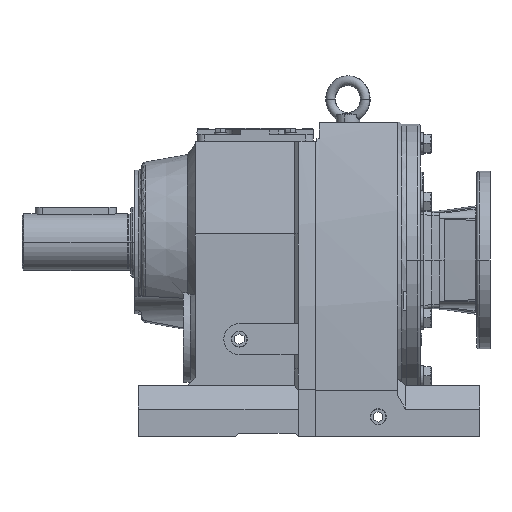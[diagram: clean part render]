
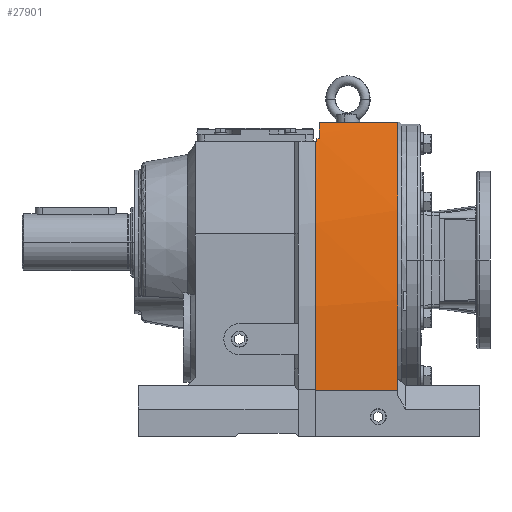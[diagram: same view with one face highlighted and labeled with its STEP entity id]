
A CAD part, front view. The second image highlights one B-rep face of the part: STEP entity #27901.
In plain terms, the highlighted cylindrical face has radius 1000 mm (diameter 2000 mm), a partial arc.
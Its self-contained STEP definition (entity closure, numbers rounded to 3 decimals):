
#5521 = DIRECTION ( 'NONE',  ( 0., 1., 0. ) ) ;
#5522 = DIRECTION ( 'NONE',  ( -1., 0., 0. ) ) ;
#5523 = CARTESIAN_POINT ( 'NONE',  ( 240., 799.313, -154.229 ) ) ;
#5525 = DIRECTION ( 'NONE',  ( 0., 0., 1. ) ) ;
#5526 = DIRECTION ( 'NONE',  ( -1., 0., 0. ) ) ;
#5527 = CARTESIAN_POINT ( 'NONE',  ( 243., 799.313, -154.229 ) ) ;
#5551 = CARTESIAN_POINT ( 'NONE',  ( 344., -200., -191.3 ) ) ;
#5552 = DIRECTION ( 'NONE',  ( 1., 0., 0. ) ) ;
#5553 = DIRECTION ( 'NONE',  ( -1., 0., 0. ) ) ;
#5554 = CARTESIAN_POINT ( 'NONE',  ( 243., -158.549, 133. ) ) ;
#5578 = DIRECTION ( 'NONE',  ( 1., 0., 0. ) ) ;
#5589 = CARTESIAN_POINT ( 'NONE',  ( 238., -151.886, 154.35 ) ) ;
#5605 = DIRECTION ( 'NONE',  ( 1., 0., 0. ) ) ;
#5606 = CARTESIAN_POINT ( 'NONE',  ( 344., -159.444, 130. ) ) ;
#5641 = CARTESIAN_POINT ( 'NONE',  ( 344., 799.313, -154.229 ) ) ;
#5644 = DIRECTION ( 'NONE',  ( 0., 0., 1. ) ) ;
#5645 = DIRECTION ( 'NONE',  ( -1., 0., 0. ) ) ;
#10001 = CIRCLE ( 'NONE', #10003, 1000. ) ;
#10003 = AXIS2_PLACEMENT_3D ( 'NONE', #5641, #5645, #5644 ) ;
#10024 = VECTOR ( 'NONE', #5605, 1000. ) ;
#10041 = VECTOR ( 'NONE', #5578, 1000. ) ;
#10049 = CIRCLE ( 'NONE', #19867, 1000. ) ;
#10115 = CIRCLE ( 'NONE', #10140, 1000. ) ;
#10140 = AXIS2_PLACEMENT_3D ( 'NONE', #32297, #32312, #32356 ) ;
#14263 = LINE ( 'NONE', #5606, #10024 ) ;
#14268 = LINE ( 'NONE', #5589, #10041 ) ;
#14276 = LINE ( 'NONE', #5551, #19879 ) ;
#14277 = LINE ( 'NONE', #5554, #19880 ) ;
#17293 = FACE_OUTER_BOUND ( 'NONE', #36539, .T. ) ;
#17294 = CYLINDRICAL_SURFACE ( 'NONE', #29004, 1000. ) ;
#19406 = EDGE_CURVE ( 'NONE', #35748, #35487, #10001, .T. ) ;
#19440 = EDGE_CURVE ( 'NONE', #35349, #35825, #14263, .T. ) ;
#19463 = EDGE_CURVE ( 'NONE', #35479, #35487, #14268, .T. ) ;
#19479 = EDGE_CURVE ( 'NONE', #35825, #35483, #10049, .T. ) ;
#19481 = EDGE_CURVE ( 'NONE', #35532, #35479, #19868, .T. ) ;
#19502 = EDGE_CURVE ( 'NONE', #35670, #35748, #14276, .T. ) ;
#19504 = EDGE_CURVE ( 'NONE', #35532, #35483, #14277, .T. ) ;
#19867 = AXIS2_PLACEMENT_3D ( 'NONE', #5523, #5522, #5521 ) ;
#19868 = CIRCLE ( 'NONE', #19869, 1000. ) ;
#19869 = AXIS2_PLACEMENT_3D ( 'NONE', #5527, #5526, #5525 ) ;
#19879 = VECTOR ( 'NONE', #5552, 1000. ) ;
#19880 = VECTOR ( 'NONE', #5553, 1000. ) ;
#23520 = DIRECTION ( 'NONE',  ( -1., 0., 0. ) ) ;
#23712 = DIRECTION ( 'NONE',  ( 0., 0., 1. ) ) ;
#23736 = CARTESIAN_POINT ( 'NONE',  ( 344., 799.313, -154.229 ) ) ;
#24207 = CARTESIAN_POINT ( 'NONE',  ( 344., -151.886, 154.35 ) ) ;
#24269 = CARTESIAN_POINT ( 'NONE',  ( 243., -158.549, 133. ) ) ;
#24325 = CARTESIAN_POINT ( 'NONE',  ( 243., -151.886, 154.35 ) ) ;
#24336 = CARTESIAN_POINT ( 'NONE',  ( 238., -200., -191.3 ) ) ;
#24447 = CARTESIAN_POINT ( 'NONE',  ( 344., -200., -191.3 ) ) ;
#24563 = CARTESIAN_POINT ( 'NONE',  ( 238., -159.444, 130. ) ) ;
#25504 = CARTESIAN_POINT ( 'NONE',  ( 240., -159.444, 130. ) ) ;
#25677 = CARTESIAN_POINT ( 'NONE',  ( 240., -158.549, 133. ) ) ;
#27676 = ORIENTED_EDGE ( 'NONE', *, *, #19504, .T. ) ;
#27679 = ORIENTED_EDGE ( 'NONE', *, *, #19440, .F. ) ;
#27682 = ORIENTED_EDGE ( 'NONE', *, *, #19406, .T. ) ;
#27683 = ORIENTED_EDGE ( 'NONE', *, *, #28618, .F. ) ;
#27684 = ORIENTED_EDGE ( 'NONE', *, *, #19502, .T. ) ;
#27685 = ORIENTED_EDGE ( 'NONE', *, *, #19463, .F. ) ;
#27686 = ORIENTED_EDGE ( 'NONE', *, *, #19481, .F. ) ;
#27687 = ORIENTED_EDGE ( 'NONE', *, *, #19479, .F. ) ;
#27901 = ADVANCED_FACE ( 'NONE', ( #17293 ), #17294, .T. ) ;
#28618 = EDGE_CURVE ( 'NONE', #35670, #35349, #10115, .T. ) ;
#29004 = AXIS2_PLACEMENT_3D ( 'NONE', #23736, #23520, #23712 ) ;
#32297 = CARTESIAN_POINT ( 'NONE',  ( 238., 799.313, -154.229 ) ) ;
#32312 = DIRECTION ( 'NONE',  ( -1., 0., 0. ) ) ;
#32356 = DIRECTION ( 'NONE',  ( 0., 0., 1. ) ) ;
#35349 = VERTEX_POINT ( 'NONE', #24563 ) ;
#35479 = VERTEX_POINT ( 'NONE', #24325 ) ;
#35483 = VERTEX_POINT ( 'NONE', #25677 ) ;
#35487 = VERTEX_POINT ( 'NONE', #24207 ) ;
#35532 = VERTEX_POINT ( 'NONE', #24269 ) ;
#35670 = VERTEX_POINT ( 'NONE', #24336 ) ;
#35748 = VERTEX_POINT ( 'NONE', #24447 ) ;
#35825 = VERTEX_POINT ( 'NONE', #25504 ) ;
#36539 = EDGE_LOOP ( 'NONE', ( #27679, #27683, #27684, #27682, #27685, #27686, #27676, #27687 ) ) ;
